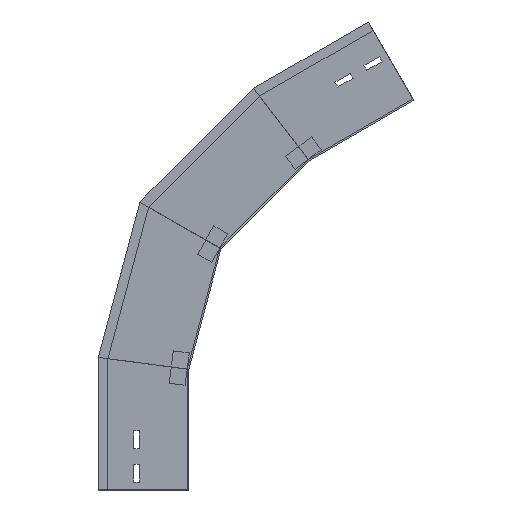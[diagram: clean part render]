
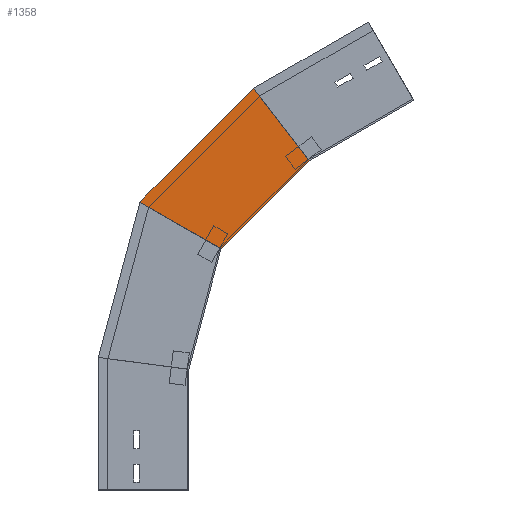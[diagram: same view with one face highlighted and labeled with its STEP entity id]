
A CAD part, left-side view. The second image highlights one B-rep face of the part: STEP entity #1358.
In plain terms, the highlighted planar face has unit normal (-1, 0, 0) as drawn and (1, 0, 0) by its records, which use the part's own axes.
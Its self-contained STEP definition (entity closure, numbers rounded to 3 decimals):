
#36 = DIRECTION ( 'NONE',  ( 0., -0.259, 0.966 ) ) ;
#43 = EDGE_CURVE ( 'NONE', #623, #1033, #754, .T. ) ;
#84 = ORIENTED_EDGE ( 'NONE', *, *, #43, .T. ) ;
#153 = DIRECTION ( 'NONE',  ( 0., -0.866, -0.5 ) ) ;
#162 = CARTESIAN_POINT ( 'NONE',  ( 0., 4.243, 134.167 ) ) ;
#169 = DIRECTION ( 'NONE',  ( 0., -0.991, -0.131 ) ) ;
#205 = VERTEX_POINT ( 'NONE', #648 ) ;
#206 = CARTESIAN_POINT ( 'NONE',  ( 0., 112.909, 163.284 ) ) ;
#214 = AXIS2_PLACEMENT_3D ( 'NONE', #1171, #1186, #264 ) ;
#264 = DIRECTION ( 'NONE',  ( 0., 0., -1. ) ) ;
#283 = CARTESIAN_POINT ( 'NONE',  ( 0., -78.533, 277.539 ) ) ;
#380 = CARTESIAN_POINT ( 'NONE',  ( 0., 60.748, 357.953 ) ) ;
#478 = VECTOR ( 'NONE', #153, 1000. ) ;
#611 = DIRECTION ( 'NONE',  ( 0., -0.259, 0.966 ) ) ;
#623 = VERTEX_POINT ( 'NONE', #671 ) ;
#648 = CARTESIAN_POINT ( 'NONE',  ( 0., -40.117, 299.719 ) ) ;
#650 = FACE_OUTER_BOUND ( 'NONE', #715, .T. ) ;
#671 = CARTESIAN_POINT ( 'NONE',  ( 0., 112.5, 164.811 ) ) ;
#675 = LINE ( 'NONE', #821, #1159 ) ;
#715 = EDGE_LOOP ( 'NONE', ( #84, #1391, #839, #1299 ) ) ;
#725 = CARTESIAN_POINT ( 'NONE',  ( 0., 0., 150. ) ) ;
#754 = LINE ( 'NONE', #206, #1182 ) ;
#821 = CARTESIAN_POINT ( 'NONE',  ( 0., -19.411, 147.444 ) ) ;
#839 = ORIENTED_EDGE ( 'NONE', *, *, #1528, .F. ) ;
#927 = PLANE ( 'NONE',  #214 ) ;
#971 = LINE ( 'NONE', #162, #1436 ) ;
#1033 = VERTEX_POINT ( 'NONE', #380 ) ;
#1159 = VECTOR ( 'NONE', #169, 1000. ) ;
#1171 = CARTESIAN_POINT ( 'NONE',  ( 0., 4.243, 134.167 ) ) ;
#1182 = VECTOR ( 'NONE', #611, 1000. ) ;
#1186 = DIRECTION ( 'NONE',  ( 1., 0., 0. ) ) ;
#1192 = LINE ( 'NONE', #283, #478 ) ;
#1261 = VERTEX_POINT ( 'NONE', #725 ) ;
#1299 = ORIENTED_EDGE ( 'NONE', *, *, #1572, .F. ) ;
#1358 = ADVANCED_FACE ( 'NONE', ( #650 ), #927, .T. ) ;
#1391 = ORIENTED_EDGE ( 'NONE', *, *, #1439, .T. ) ;
#1436 = VECTOR ( 'NONE', #36, 1000. ) ;
#1439 = EDGE_CURVE ( 'NONE', #1033, #205, #1192, .T. ) ;
#1528 = EDGE_CURVE ( 'NONE', #1261, #205, #971, .T. ) ;
#1572 = EDGE_CURVE ( 'NONE', #623, #1261, #675, .T. ) ;
